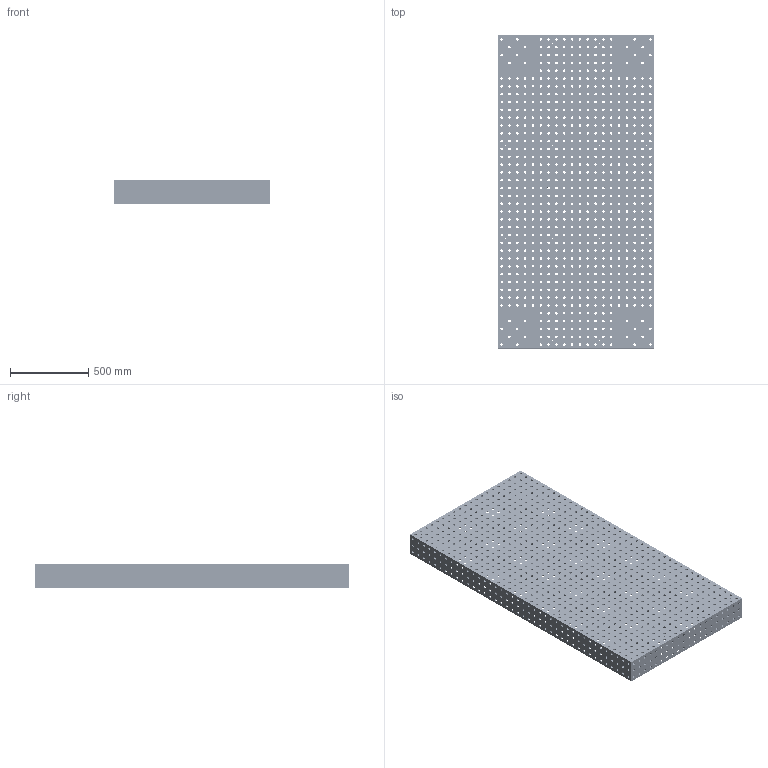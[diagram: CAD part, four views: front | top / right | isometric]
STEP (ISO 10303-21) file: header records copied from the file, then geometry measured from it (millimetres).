
FILE_DESCRIPTION(/* description */ (''),/* implementation_level */ '2;1');
FILE_NAME(/* name */ '3D Simplifi - 2000x1000 G3.step',/* time_stamp */ '2026-09-09T12:04:42+02:00',/* author */ (''),/* organization */ (''),/* preprocessor_version */ 'ST-DEVELOPER v20.2',/* originating_system */ 'Autodesk Translation Framework v15.15.0.0',/* authorisation */ '');
FILE_SCHEMA (('AUTOMOTIVE_DESIGN { 1 0 10303 214 3 1 1 }'));
Length unit declared in the file: millimetre
Products named in the file (1): 3D Simplifié - 2000x1000
Bounding box: 1000 x 2000 x 150 mm (x, y, z)
Volume: 28135483.5 mm3; surface area: 9970281.6 mm2
Topology: 6 solids, 6 shells, 1372 faces, 4080 edges, 2720 vertices
Faces by surface type: cylinder 1208, plane 164
Full cylindrical faces by diameter (mm): 6.5 x16, 16 x1192
Entity records: 52408 total; most frequent: DIRECTION 9242, CARTESIAN_POINT 8173, ORIENTED_EDGE 8160, EDGE_CURVE 4080, EDGE_LOOP 3852, AXIS2_PLACEMENT_3D 3789, VERTEX_POINT 2720, FACE_BOUND 2480
